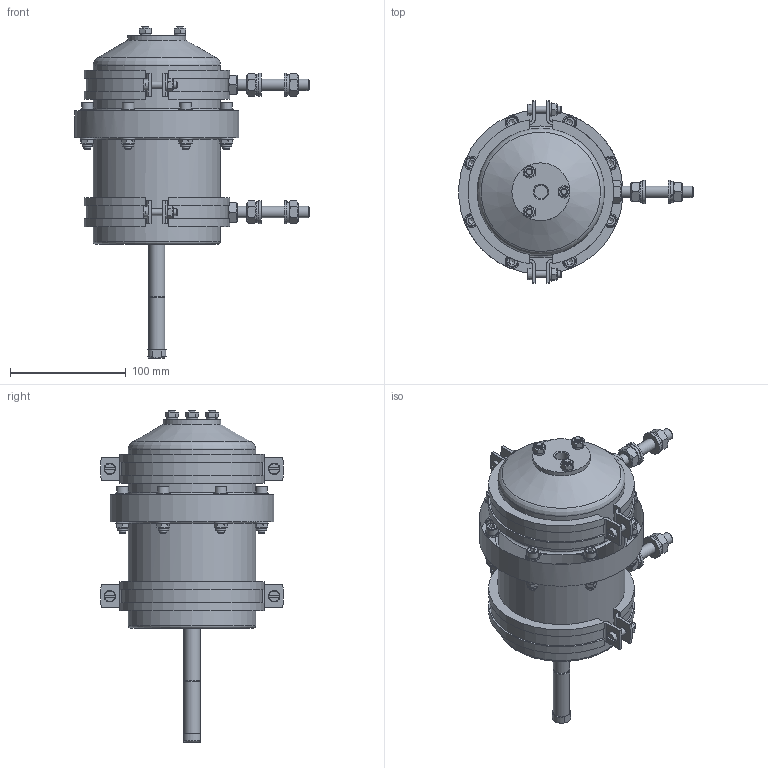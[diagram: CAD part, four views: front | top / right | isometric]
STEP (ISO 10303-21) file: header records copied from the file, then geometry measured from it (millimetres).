
FILE_DESCRIPTION(/* description */ (''),/* implementation_level */ '2;1');
FILE_NAME(/* name */ 'C:\Workspace\Projects\Z. Archive\Erwin\Hycos step\Serie 1 - The Basic Serie (Hyco Black)\Hyco 0.6L BL - ME-0154-0001.stp',/* time_stamp */ '2017-04-14T15:11:30+02:00',/* author */ ('Joost'),/* organization */ (''),/* preprocessor_version */ 'ST-DEVELOPER v15.2',/* originating_system */ 'Autodesk Inventor 2014',/* authorisation */ '');
FILE_SCHEMA (('AUTOMOTIVE_DESIGN { 1 0 10303 214 3 1 1 }'));
Length unit declared in the file: millimetre
Products named in the file (1): ME-0154-0001-Solid
Bounding box: 202.28 x 157.86 x 286.78 mm (x, y, z)
Volume: 1925045.4 mm3; surface area: 147480 mm2
Topology: 1 solids, 1 shells, 655 faces, 1669 edges, 1065 vertices
Faces by surface type: plane 383, cylinder 163, cone 89, torus 20
Full cylindrical faces by diameter (mm): 4.917 x2, 6 x22, 6.5 x3, 6.647 x1, 8.9 x8, 10 x14, 10.5 x4, 11.445 x1, 12 x20, 14 x3, 20 x8, 50 x1, 110 x2, 142 x1
Entity records: 18647 total; most frequent: CARTESIAN_POINT 3884, DIRECTION 2904, ORIENTED_EDGE 2814, EDGE_CURVE 1401, AXIS2_PLACEMENT_3D 1193, VERTEX_POINT 981, EDGE_LOOP 932, STYLED_ITEM 656
